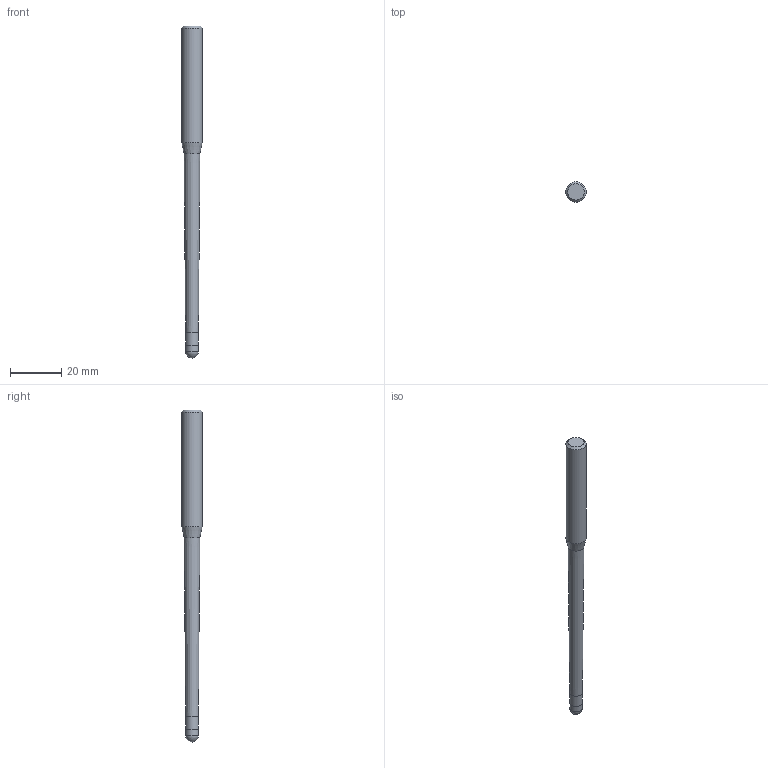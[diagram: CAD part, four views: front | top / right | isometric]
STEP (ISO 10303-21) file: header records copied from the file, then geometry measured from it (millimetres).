
FILE_DESCRIPTION((''),'2;1');
FILE_NAME('C:\Users\nsx150\AppData\Local\Temp\Mastercam 2021\SNAKH10GOD\TEMP.step','2021-10-21T13:33:45',(''),(''),'STEP Write','Mastercam 2021 ... CNC Software, Inc.','');
FILE_SCHEMA(('AUTOMOTIVE_DESIGN'));
Length unit declared in the file: millimetre
Products named in the file (1): None
Bounding box: 8 x 8 x 130 mm (x, y, z)
Volume: 4372.8 mm3; surface area: 2712.1 mm2
Topology: 2 solids, 2 shells, 10 faces, 16 edges, 9 vertices
Faces by surface type: plane 3, cylinder 3, cone 3, sphere 1
Full cylindrical faces by diameter (mm): 4.98 x1, 5 x1, 8 x1
Entity records: 232 total; most frequent: DIRECTION 40, CARTESIAN_POINT 28, AXIS2_PLACEMENT_3D 20, ORIENTED_EDGE 16, EDGE_LOOP 16, STYLED_ITEM 13, ADVANCED_FACE 10, FACE_BOUND 9
